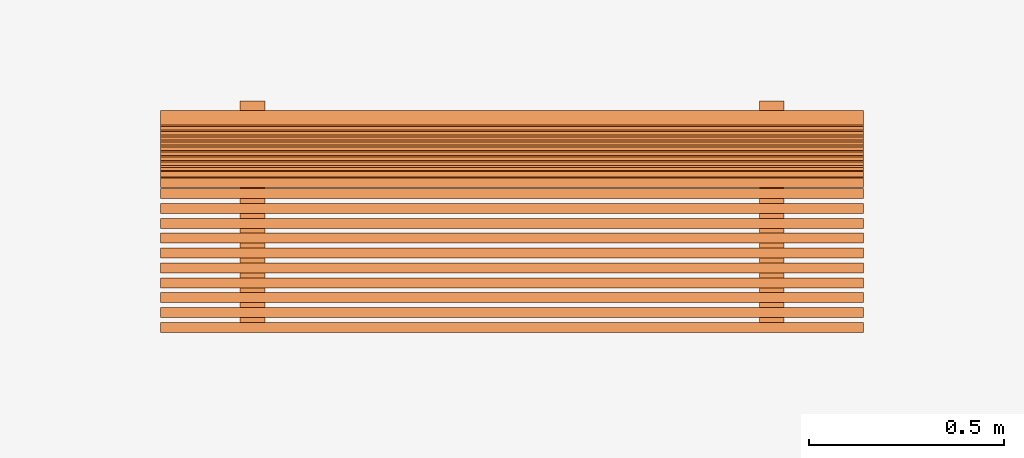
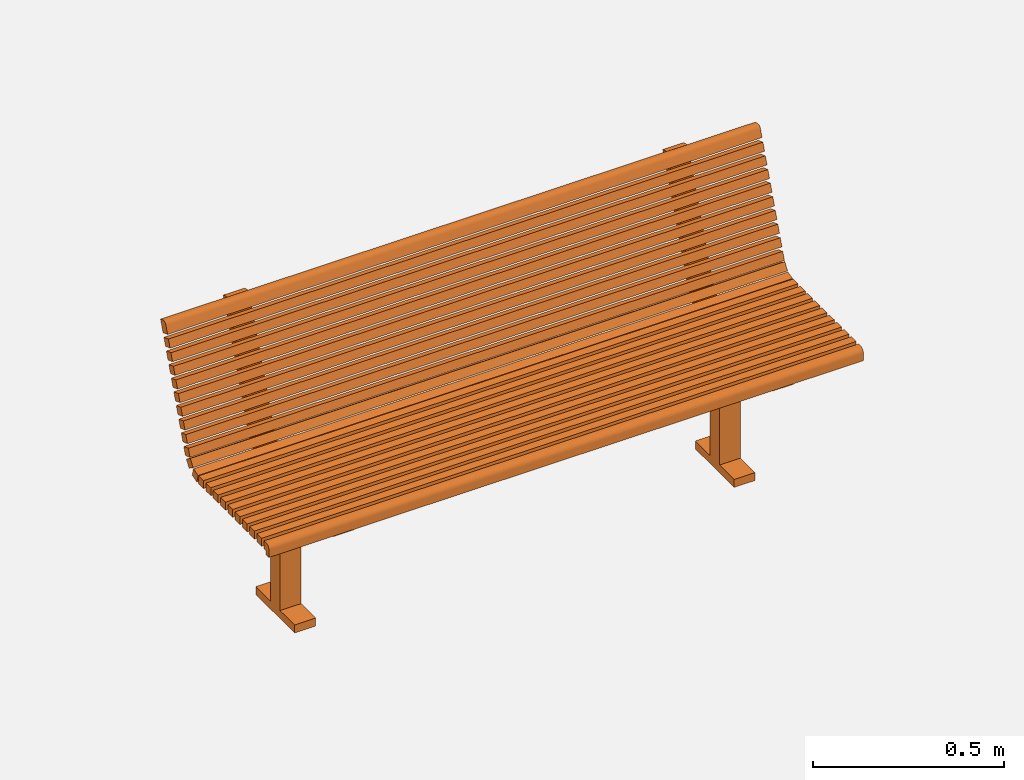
# One storey, part 3 of 6: 1 proxy.
"""IFC2X3 building model written with IfcOpenShell, lengths in millimetres."""

from ifc_helpers import new_model, entity, si_unit, converted_unit, derived_unit, direction, frame, frame_2d, origin, origin_2d_with_axis, place, context, subcontext, project, spatial, polyline, circle_curve, parameter, trimmed, segment, composite_curve, rectangle, outline, extrude, source, transform, mapped, material, material_list, element, save


model = new_model("IFC2X3")

# Units and contexts
model_context = context("Model", 3, precision=0.01, world=origin(), true_north=direction((6.12303176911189e-17, 1.0)))
body_context = subcontext(model_context, "Body", "Model", "MODEL_VIEW")
ifc_project = project(units=[si_unit("LENGTHUNIT", "METRE", prefix="MILLI"), si_unit("AREAUNIT", "SQUARE_METRE"), si_unit("VOLUMEUNIT", "CUBIC_METRE"), converted_unit("PLANEANGLEUNIT", "DEGREE", entity("IfcRatioMeasure", 0.0174532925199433), si_unit("PLANEANGLEUNIT", "RADIAN"), dimensions=[0, 0, 0, 0, 0, 0, 0]), si_unit("MASSUNIT", "GRAM", prefix="KILO"), derived_unit("MASSDENSITYUNIT", [(si_unit("MASSUNIT", "GRAM", prefix="KILO"), 1), (si_unit("LENGTHUNIT", "METRE"), -3)]), si_unit("TIMEUNIT", "SECOND"), si_unit("FREQUENCYUNIT", "HERTZ"), si_unit("THERMODYNAMICTEMPERATUREUNIT", "DEGREE_CELSIUS"), derived_unit("THERMALTRANSMITTANCEUNIT", [(si_unit("MASSUNIT", "GRAM", prefix="KILO"), 1), (si_unit("THERMODYNAMICTEMPERATUREUNIT", "KELVIN"), -1), (si_unit("TIMEUNIT", "SECOND"), -3)]), derived_unit("VOLUMETRICFLOWRATEUNIT", [(si_unit("LENGTHUNIT", "METRE"), 3), (si_unit("TIMEUNIT", "SECOND"), -1)]), si_unit("ELECTRICCURRENTUNIT", "AMPERE"), si_unit("ELECTRICVOLTAGEUNIT", "VOLT"), si_unit("POWERUNIT", "WATT"), si_unit("FORCEUNIT", "NEWTON", prefix="KILO"), si_unit("ILLUMINANCEUNIT", "LUX"), si_unit("LUMINOUSFLUXUNIT", "LUMEN"), si_unit("LUMINOUSINTENSITYUNIT", "CANDELA"), derived_unit("USERDEFINED", [(si_unit("MASSUNIT", "GRAM", prefix="KILO"), -1), (si_unit("LENGTHUNIT", "METRE"), -2), (si_unit("TIMEUNIT", "SECOND"), 3), (si_unit("LUMINOUSFLUXUNIT", "LUMEN"), 1)]), derived_unit("LINEARVELOCITYUNIT", [(si_unit("LENGTHUNIT", "METRE"), 1), (si_unit("TIMEUNIT", "SECOND"), -1)]), si_unit("PRESSUREUNIT", "PASCAL"), derived_unit("USERDEFINED", [(si_unit("LENGTHUNIT", "METRE"), -2), (si_unit("MASSUNIT", "GRAM", prefix="KILO"), 1), (si_unit("TIMEUNIT", "SECOND"), -2)])], contexts=[model_context])

# Site, building, storey
site_placement = place(None, origin())
site = spatial("IfcSite", under=ifc_project, at=site_placement, Name="表面", CompositionType="ELEMENT")
building_placement = place(site_placement, origin())
building = spatial("IfcBuilding", under=site, at=building_placement, CompositionType="ELEMENT")
storey_placement = place(building_placement, frame((0.0, 0.0, -450.0)))
storey = spatial("IfcBuildingStorey", under=building, at=storey_placement, Name="室外地坪", CompositionType="ELEMENT", Elevation=-449.999999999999)

# Proxy
ifc_material_1 = material(Name="木质 - 柚木")
ifc_material_2 = material(Name="金属 - 油漆面层 - 深灰色，粗面")
ifc_material_list = material_list([ifc_material_1, ifc_material_2])
shared_shape = source(origin(), body_context, "Body", "SweptSolid", [
    extrude(outline(composite_curve([segment(polyline([(0.797293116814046, -5.21607142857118), (12.0635827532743, -5.21607142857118)]), True, "CONTINUOUS"), segment(polyline([(12.0635827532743, -5.21607142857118), (12.0635827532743, 20.1839285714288)]), True, "CONTINUOUS"), segment(polyline([(12.0635827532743, 20.1839285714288), (0.951082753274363, 20.1839285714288)]), True, "CONTINUOUS"), segment(trimmed(circle_curve(frame_2d((0.951082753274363, 5.89642857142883), x_axis=(1.0, 0.0)), 14.2875), [parameter(89.9999999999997)], [parameter(179.999999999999)], True, "PARAMETER"), True, "CONTINUOUS"), segment(polyline([(-13.3364172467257, 5.89642857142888), (-13.3364172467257, -17.9160714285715)]), True, "CONTINUOUS"), segment(polyline([(-13.3364172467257, -17.9160714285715), (0.797293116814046, -17.9160714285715)]), True, "CONTINUOUS"), segment(polyline([(0.797293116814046, -17.9160714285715), (0.797293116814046, -5.21607142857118)]), True, "CONTINUOUS")], self_intersect=False)), frame((-900.0, -305.597293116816, 462.416071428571), z_axis=(1.0, 0.0, 0.0), x_axis=(0.0, 1.0, 0.0)), (0.0, 0.0, 1.0), 1800.0),
    extrude(outline(composite_curve([segment(polyline([(-12.6999999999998, -17.78), (0.0, -17.78)]), True, "CONTINUOUS"), segment(trimmed(circle_curve(frame_2d((0.0, -5.07999999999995), x_axis=(-0.939692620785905, -0.342020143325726)), 12.7), [parameter(69.9999999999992)], [parameter(160.0)], True, "PARAMETER"), True, "CONTINUOUS"), segment(polyline([(12.7, -5.07999999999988), (12.6999999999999, 20.3200000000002)]), True, "CONTINUOUS"), segment(polyline([(12.6999999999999, 20.3200000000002), (-12.7000000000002, 20.3200000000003)]), True, "CONTINUOUS"), segment(polyline([(-12.7000000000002, 20.3200000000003), (-12.6999999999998, -17.78)]), True, "CONTINUOUS")], self_intersect=False)), frame((-900.0, 231.374580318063, 850.885044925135), z_axis=(1.0, 0.0, 0.0), x_axis=(0.0, -0.939692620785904, 0.342020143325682)), (0.0, 0.0, 1.0), 1800.0),
    extrude(rectangle(XDim=1800.0, YDim=25.4, at=frame_2d((0.0, 1.68753899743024e-14), x_axis=(1.0, 0.0))), frame((0.0, -268.133710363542, 457.2), z_axis=(0.0, 0.0, 1.0), x_axis=(-1.0, 0.0, 0.0)), (0.0, 0.0, 1.0), 25.4),
    extrude(rectangle(XDim=1800.0, YDim=25.4, at=frame_2d((0.0, 1.68753899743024e-14), x_axis=(1.0, 0.0))), frame((0.0, -230.033710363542, 457.2), z_axis=(0.0, 0.0, 1.0), x_axis=(-1.0, 0.0, 0.0)), (0.0, 0.0, 1.0), 25.4),
    extrude(rectangle(XDim=1800.0, YDim=25.4, at=frame_2d((0.0, 1.68753899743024e-14), x_axis=(1.0, 0.0))), frame((0.0, -191.933710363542, 457.2), z_axis=(0.0, 0.0, 1.0), x_axis=(-1.0, 0.0, 0.0)), (0.0, 0.0, 1.0), 25.4),
    extrude(rectangle(XDim=1800.0, YDim=25.4, at=frame_2d((0.0, 1.68753899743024e-14), x_axis=(1.0, 0.0))), frame((0.0, -153.833710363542, 457.2), z_axis=(0.0, 0.0, 1.0), x_axis=(-1.0, 0.0, 0.0)), (0.0, 0.0, 1.0), 25.4),
    extrude(rectangle(XDim=1800.0, YDim=25.4, at=frame_2d((0.0, 1.68753899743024e-14), x_axis=(1.0, 0.0))), frame((0.0, -115.733710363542, 457.2), z_axis=(0.0, 0.0, 1.0), x_axis=(-1.0, 0.0, 0.0)), (0.0, 0.0, 1.0), 25.4),
    extrude(rectangle(XDim=1800.0, YDim=25.4, at=origin_2d_with_axis()), frame((0.0, -77.6337103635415, 457.2), z_axis=(0.0, 0.0, 1.0), x_axis=(-1.0, 0.0, 0.0)), (0.0, 0.0, 1.0), 25.4),
    extrude(rectangle(XDim=1800.0, YDim=25.4, at=origin_2d_with_axis()), frame((0.0, -39.5337103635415, 457.2), z_axis=(0.0, 0.0, 1.0), x_axis=(-1.0, 0.0, 0.0)), (0.0, 0.0, 1.0), 25.4),
    extrude(rectangle(XDim=1800.0, YDim=25.4, at=origin_2d_with_axis()), frame((0.0, -1.43371036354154, 457.2), z_axis=(0.0, 0.0, 1.0), x_axis=(-1.0, 0.0, 0.0)), (0.0, 0.0, 1.0), 25.4),
    extrude(rectangle(XDim=1800.0, YDim=25.4, at=origin_2d_with_axis()), frame((0.0, 36.6662896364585, 457.2), z_axis=(0.0, 0.0, 1.0), x_axis=(-1.0, 0.0, 0.0)), (0.0, 0.0, 1.0), 25.4),
    extrude(rectangle(XDim=25.4, YDim=25.4, at=frame_2d((3.10862446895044e-14, -1.33226762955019e-13), x_axis=(0.0, 1.0))), frame((-900.0, 137.551614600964, 593.108565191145), z_axis=(1.0, 0.0, 0.0), x_axis=(0.0, -0.939692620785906, 0.342020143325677)), (0.0, 0.0, 1.0), 1800.0),
    extrude(rectangle(XDim=25.4, YDim=25.4000000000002, at=frame_2d((-8.61533067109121e-14, 4.08562073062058e-14), x_axis=(0.0, 1.0))), frame((-900.0, 150.582582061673, 628.910854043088), z_axis=(1.0, 0.0, 0.0), x_axis=(0.0, -0.939692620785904, 0.342020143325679)), (0.0, 0.0, 1.0), 1800.0),
    extrude(rectangle(XDim=25.4000000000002, YDim=25.4, at=frame_2d((-3.19744231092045e-14, -1.15463194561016e-14), x_axis=(0.0, 1.0))), frame((-900.0, 111.489679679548, 521.503987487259), z_axis=(1.0, 0.0, 0.0), x_axis=(0.0, -0.939692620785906, 0.342020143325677)), (0.0, 0.0, 1.0), 1800.0),
    extrude(rectangle(XDim=25.4, YDim=25.3999999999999, at=frame_2d((0.0, 0.0), x_axis=(0.0, 1.0))), frame((-900.0, 124.520647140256, 557.306276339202), z_axis=(1.0, 0.0, 0.0), x_axis=(0.0, -0.939692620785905, 0.342020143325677)), (0.0, 0.0, 1.0), 1800.0),
    extrude(rectangle(XDim=25.3999999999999, YDim=25.4, at=frame_2d((-3.10862446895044e-14, -1.06581410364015e-14), x_axis=(0.0, 1.0))), frame((-900.0, 189.675484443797, 736.317720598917), z_axis=(1.0, 0.0, 0.0), x_axis=(0.0, -0.939692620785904, 0.342020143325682)), (0.0, 0.0, 1.0), 1800.0),
    extrude(rectangle(XDim=25.3999999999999, YDim=25.4000000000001, at=frame_2d((-3.10862446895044e-14, -1.33226762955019e-14), x_axis=(0.0, 1.0))), frame((-900.0, 202.706451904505, 772.12000945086), z_axis=(1.0, 0.0, 0.0), x_axis=(0.0, -0.939692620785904, 0.34202014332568)), (0.0, 0.0, 1.0), 1800.0),
    extrude(rectangle(XDim=25.4, YDim=25.3999999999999, at=frame_2d((0.0, 0.0), x_axis=(0.0, 1.0))), frame((-900.0, 163.613549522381, 664.713142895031), z_axis=(1.0, 0.0, 0.0), x_axis=(0.0, -0.939692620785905, 0.342020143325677)), (0.0, 0.0, 1.0), 1800.0),
    extrude(rectangle(XDim=25.4, YDim=25.4, at=frame_2d((-7.99360577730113e-15, -7.63833440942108e-14), x_axis=(0.0, 1.0))), frame((-900.0, 176.644516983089, 700.515431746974), z_axis=(1.0, 0.0, 0.0), x_axis=(0.0, -0.939692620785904, 0.342020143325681)), (0.0, 0.0, 1.0), 1800.0),
    extrude(rectangle(XDim=25.4, YDim=25.3999999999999, at=frame_2d((3.19744231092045e-14, 1.06581410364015e-14), x_axis=(0.0, 1.0))), frame((-900.0, 215.737419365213, 807.922298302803), z_axis=(1.0, 0.0, 0.0), x_axis=(0.0, -0.939692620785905, 0.342020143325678)), (0.0, 0.0, 1.0), 1800.0),
    extrude(rectangle(XDim=25.4000000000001, YDim=25.3999999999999, at=frame_2d((-1.33226762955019e-14, -9.76996261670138e-15), x_axis=(0.0, 1.0))), frame((-900.0, 96.4732295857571, 493.845543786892), z_axis=(1.0, 0.0, 0.0), x_axis=(0.0, -0.81915204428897, 0.573576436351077)), (0.0, 0.0, 1.0), 1800.0),
    extrude(rectangle(XDim=25.4, YDim=25.4000000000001, at=frame_2d((4.44089209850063e-15, 1.68753899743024e-14), x_axis=(1.0, 0.0))), frame((-900.0, 68.061957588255, 472.784050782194), z_axis=(1.0, 0.0, 0.0), x_axis=(0.0, -0.258819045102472, 0.965925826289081)), (0.0, 0.0, 1.0), 1800.0),
    extrude(outline(composite_curve([segment(polyline([(344.97581690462, -133.451056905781), (370.37581690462, -133.451056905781)]), True, "CONTINUOUS"), segment(polyline([(370.37581690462, -133.451056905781), (370.37581690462, 69.7489430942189)]), True, "CONTINUOUS"), segment(polyline([(370.37581690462, 69.7489430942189), (344.97581690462, 69.7489430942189)]), True, "CONTINUOUS"), segment(polyline([(344.97581690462, 69.7489430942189), (344.97581690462, -6.45105690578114)]), True, "CONTINUOUS"), segment(polyline([(344.97581690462, -6.45105690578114), (-61.4241830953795, -6.45105690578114)]), True, "CONTINUOUS"), segment(polyline([(-61.4241830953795, -6.45105690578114), (-61.4241830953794, 25.2857644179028)]), True, "CONTINUOUS"), segment(trimmed(circle_curve(frame_2d((-150.324183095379, 25.2857644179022), x_axis=(0.0, 1.0)), 88.8999999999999), [parameter(270.0)], [parameter(340.0)], True, "PARAMETER"), True, "CONTINUOUS"), segment(polyline([(-119.918592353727, 108.824438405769), (-483.896145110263, 241.301433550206)]), True, "CONTINUOUS"), segment(polyline([(-483.896145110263, 241.301433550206), (-488.239800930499, 229.367337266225)]), True, "CONTINUOUS"), segment(trimmed(circle_curve(frame_2d((-476.305704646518, 225.023681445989), x_axis=(0.0, 1.0)), 12.7), [parameter(69.9999999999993)], [parameter(160.0)], True, "PARAMETER"), True, "CONTINUOUS"), segment(polyline([(-480.649360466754, 213.089585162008), (-128.6059039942, 84.9562458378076)]), True, "CONTINUOUS"), segment(trimmed(circle_curve(frame_2d((-150.32418309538, 25.2857644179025), x_axis=(0.0, 1.0)), 63.5), [parameter(270.0)], [parameter(340.0)], True, "PARAMETER"), False, "CONTINUOUS"), segment(polyline([(-86.8241830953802, 25.2857644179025), (-86.8241830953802, -336.651056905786)]), True, "CONTINUOUS"), segment(polyline([(-86.8241830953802, -336.651056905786), (-61.4241830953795, -336.651056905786)]), True, "CONTINUOUS"), segment(polyline([(-61.4241830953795, -336.651056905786), (-61.4241830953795, -57.2510569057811)]), True, "CONTINUOUS"), segment(polyline([(-61.4241830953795, -57.2510569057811), (344.97581690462, -57.2510569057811)]), True, "CONTINUOUS"), segment(polyline([(344.97581690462, -57.2510569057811), (344.97581690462, -133.451056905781)]), True, "CONTINUOUS")], self_intersect=False)), frame((633.973659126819, 31.8510569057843, 370.37581690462), z_axis=(1.0, 0.0, 0.0), x_axis=(0.0, 0.0, -1.0)), (0.0, 0.0, 1.0), 62.8263408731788),
    extrude(outline(composite_curve([segment(polyline([(344.97581690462, -133.451056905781), (370.37581690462, -133.451056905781)]), True, "CONTINUOUS"), segment(polyline([(370.37581690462, -133.451056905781), (370.37581690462, 69.7489430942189)]), True, "CONTINUOUS"), segment(polyline([(370.37581690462, 69.7489430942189), (344.97581690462, 69.7489430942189)]), True, "CONTINUOUS"), segment(polyline([(344.97581690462, 69.7489430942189), (344.97581690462, -6.45105690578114)]), True, "CONTINUOUS"), segment(polyline([(344.97581690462, -6.45105690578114), (-61.4241830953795, -6.45105690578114)]), True, "CONTINUOUS"), segment(polyline([(-61.4241830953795, -6.45105690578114), (-61.4241830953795, 25.2857644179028)]), True, "CONTINUOUS"), segment(trimmed(circle_curve(frame_2d((-150.32418309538, 25.2857644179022), x_axis=(0.0, 1.0)), 88.9), [parameter(270.0)], [parameter(340.0)], True, "PARAMETER"), True, "CONTINUOUS"), segment(polyline([(-119.918592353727, 108.824438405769), (-483.896145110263, 241.301433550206)]), True, "CONTINUOUS"), segment(polyline([(-483.896145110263, 241.301433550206), (-488.239800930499, 229.367337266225)]), True, "CONTINUOUS"), segment(trimmed(circle_curve(frame_2d((-476.305704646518, 225.023681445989), x_axis=(0.0, 1.0)), 12.7), [parameter(69.9999999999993)], [parameter(160.0)], True, "PARAMETER"), True, "CONTINUOUS"), segment(polyline([(-480.649360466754, 213.089585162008), (-128.6059039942, 84.9562458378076)]), True, "CONTINUOUS"), segment(trimmed(circle_curve(frame_2d((-150.32418309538, 25.2857644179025), x_axis=(0.0, 1.0)), 63.5), [parameter(270.0)], [parameter(340.0)], True, "PARAMETER"), False, "CONTINUOUS"), segment(polyline([(-86.8241830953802, 25.2857644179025), (-86.8241830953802, -336.651056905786)]), True, "CONTINUOUS"), segment(polyline([(-86.8241830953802, -336.651056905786), (-61.4241830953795, -336.651056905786)]), True, "CONTINUOUS"), segment(polyline([(-61.4241830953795, -336.651056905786), (-61.4241830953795, -57.2510569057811)]), True, "CONTINUOUS"), segment(polyline([(-61.4241830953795, -57.2510569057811), (344.97581690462, -57.2510569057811)]), True, "CONTINUOUS"), segment(polyline([(344.97581690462, -57.2510569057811), (344.97581690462, -133.451056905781)]), True, "CONTINUOUS")], self_intersect=False)), frame((-696.799999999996, 31.8510569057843, 370.37581690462), z_axis=(1.0, 0.0, 0.0), x_axis=(0.0, 0.0, -1.0)), (0.0, 0.0, 1.0), 63.8916859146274),
])
proxy_placement = place(storey_placement, frame((-11750.2499126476, -34536.868426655, 100.0)))
element("IfcBuildingElementProxy", 1, at=proxy_placement, inside=storey, material=ifc_material_list, Name="长椅:1800 mm", ObjectType="1800 mm", context=body_context, shape_type="MappedRepresentation", body=[
    mapped(shared_shape, transform((0.0, 0.0, 0.0), scale=1.0)),
])

save(model, "model.ifc")
